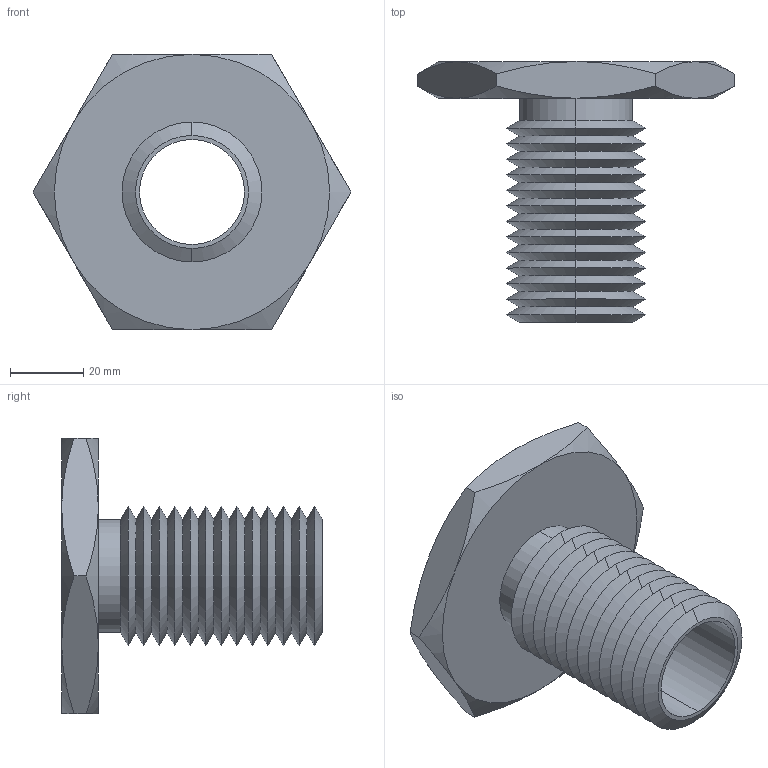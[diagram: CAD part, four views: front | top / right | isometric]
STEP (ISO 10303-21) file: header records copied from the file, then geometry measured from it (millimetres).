
FILE_DESCRIPTION (( 'STEP AP203' ), '1' );
FILE_NAME ('63302.W5150_1,12 UNC-7.step', '2013-12-08T11:47:46', ( 'User' ), ( '' ), 'SwSTEP 2.0', 'SolidWorks 2009', '' );
FILE_SCHEMA (( 'CONFIG_CONTROL_DESIGN' ));
Length unit declared in the file: millimetre
Products named in the file (1): 63302.W5150_1,12 UNC-7
Bounding box: 86.6 x 71 x 75 mm (x, y, z)
Volume: 57488.6 mm3; surface area: 29281.6 mm2
Topology: 1 solids, 1 shells, 79 faces, 162 edges, 86 vertices
Faces by surface type: cone 66, plane 9, cylinder 4
Entity records: 2239 total; most frequent: CARTESIAN_POINT 512, DIRECTION 372, ORIENTED_EDGE 324, EDGE_CURVE 162, AXIS2_PLACEMENT_3D 154, VERTEX_POINT 86, EDGE_LOOP 82, ADVANCED_FACE 79
